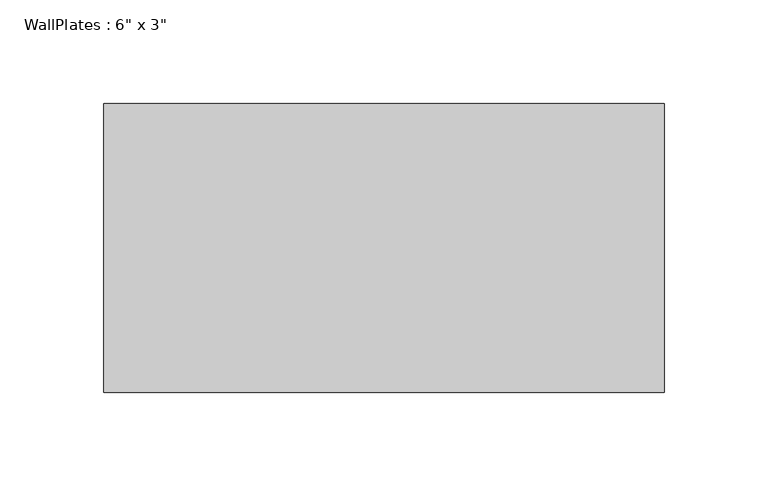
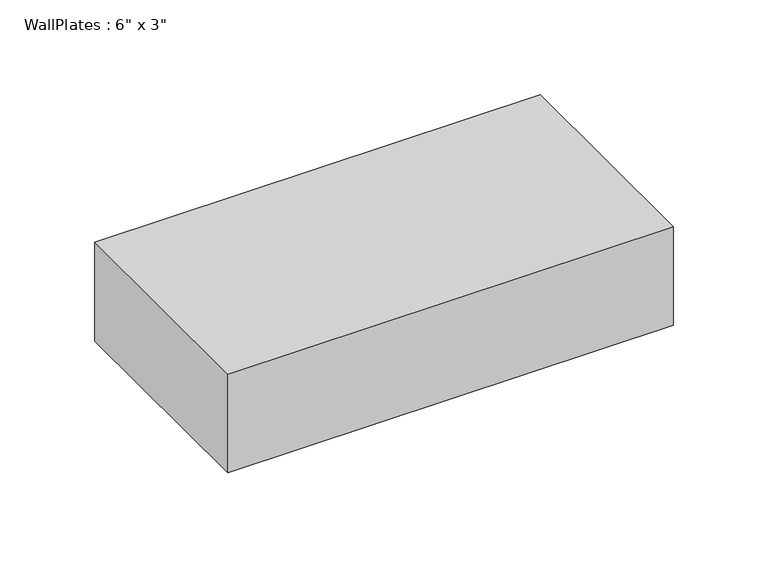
"""IFC4 building model written with IfcOpenShell, lengths in millimetres: beam geometry."""

from ifc_helpers import new_model, si_unit, frame, origin, place, context, project, spatial, polyline, outline, extrude, source, transform, mapped, element, save


def beam_b49cdb40(model_context):
    return source(origin(), model_context, "Body", "SweptSolid", [
        extrude(outline(polyline([(-135.4666667, -69.85), (-135.4666667, 69.85), (135.4666667, 69.85), (135.4666667, -69.85), (-135.4666667, -69.85)])), frame((0.0, 0.0, -31.75), z_axis=(0.0, 0.0, 1.0), x_axis=(1.0, 0.0, 0.0)), (0.0, 0.0, 1.0), 63.5),
    ])


if __name__ == "__main__":
    model = new_model("IFC4")
    model_context = context("Model", 3, world=origin())
    ifc_project = project(units=[si_unit("LENGTHUNIT", "METRE", prefix="MILLI")], contexts=[model_context])
    site = spatial("IfcSite", under=ifc_project)
    building = spatial("IfcBuilding", under=site)
    placement = place(None, origin())
    beam_shape = beam_b49cdb40(model_context)
    element("IfcBeam", 1, ObjectType="WallPlates : 6\" x 3\"", at=placement, inside=building, context=model_context, shape_type="MappedRepresentation", body=[
        mapped(beam_shape, transform((0.0, 0.0, 0.0), x_axis=(1.0, 0.0, 0.0), y_axis=(0.0, 1.0, 0.0), z_axis=(0.0, 0.0, 1.0))),
    ])
    save(model, "model.ifc")
